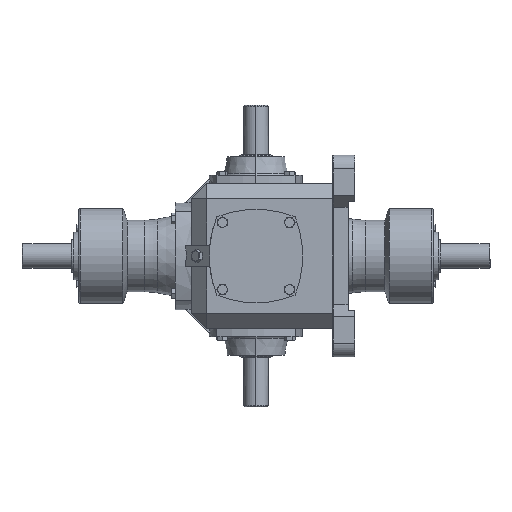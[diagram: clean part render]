
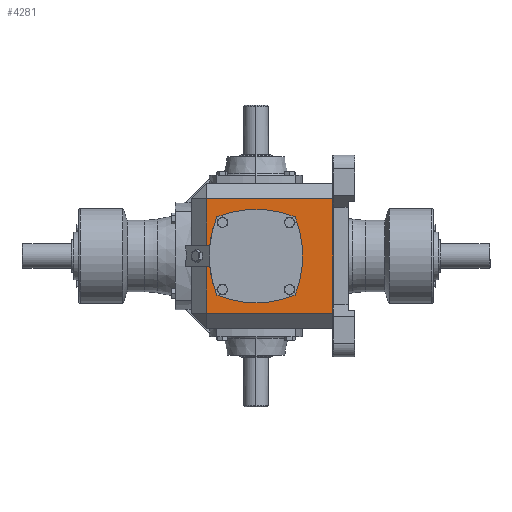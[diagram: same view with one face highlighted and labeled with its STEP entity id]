
A CAD part, left-side view. The second image highlights one B-rep face of the part: STEP entity #4281.
In plain terms, the highlighted planar face has unit normal (-1, 0, 0).
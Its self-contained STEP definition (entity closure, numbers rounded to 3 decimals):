
#44 = CARTESIAN_POINT ( 'NONE',  ( -55.8, 42.56, 0. ) ) ;
#61 = AXIS2_PLACEMENT_3D ( 'NONE', #149, #5010, #9481 ) ;
#100 = CARTESIAN_POINT ( 'NONE',  ( -55.8, 0., 42.56 ) ) ;
#130 = VECTOR ( 'NONE', #11841, 1000. ) ;
#149 = CARTESIAN_POINT ( 'NONE',  ( -55.8, 49.6, 55.8 ) ) ;
#524 = CARTESIAN_POINT ( 'NONE',  ( -55.8, 38.008, -8.114 ) ) ;
#685 = CARTESIAN_POINT ( 'NONE',  ( -55.8, 49.6, 44.208 ) ) ;
#1056 = CARTESIAN_POINT ( 'NONE',  ( -55.8, 49.6, 8.114 ) ) ;
#1843 = CARTESIAN_POINT ( 'NONE',  ( -55.8, 38.008, 55.8 ) ) ;
#1899 = CARTESIAN_POINT ( 'NONE',  ( -55.8, -42.56, 0. ) ) ;
#1964 = DIRECTION ( 'NONE',  ( -1., 0., 0. ) ) ;
#1988 = VERTEX_POINT ( 'NONE', #10606 ) ;
#2269 = CIRCLE ( 'NONE', #12790, 78.568 ) ;
#2323 = EDGE_CURVE ( 'NONE', #13124, #15799, #7478, .T. ) ;
#2410 = VERTEX_POINT ( 'NONE', #17762 ) ;
#2616 = DIRECTION ( 'NONE',  ( 0., 0., 1. ) ) ;
#2971 = VERTEX_POINT ( 'NONE', #12444 ) ;
#3679 = CARTESIAN_POINT ( 'NONE',  ( -55.8, 38.008, 44.208 ) ) ;
#3759 = ORIENTED_EDGE ( 'NONE', *, *, #5955, .T. ) ;
#3988 = ORIENTED_EDGE ( 'NONE', *, *, #11668, .T. ) ;
#4087 = ORIENTED_EDGE ( 'NONE', *, *, #14980, .F. ) ;
#4281 = ADVANCED_FACE ( 'NONE', ( #6581 ), #11168, .F. ) ;
#4611 = VERTEX_POINT ( 'NONE', #11223 ) ;
#4852 = VECTOR ( 'NONE', #16788, 1000. ) ;
#4990 = DIRECTION ( 'NONE',  ( 0., 0., 1. ) ) ;
#5010 = DIRECTION ( 'NONE',  ( 1., 0., 0. ) ) ;
#5056 = DIRECTION ( 'NONE',  ( -1., 0., 0. ) ) ;
#5110 = CARTESIAN_POINT ( 'NONE',  ( -55.8, 49.6, -8.114 ) ) ;
#5893 = LINE ( 'NONE', #1843, #11601 ) ;
#5955 = EDGE_CURVE ( 'NONE', #4611, #9851, #15472, .T. ) ;
#5959 = LINE ( 'NONE', #8891, #12417 ) ;
#6581 = FACE_OUTER_BOUND ( 'NONE', #12611, .T. ) ;
#7140 = DIRECTION ( 'NONE',  ( 0., 0., 1. ) ) ;
#7251 = VECTOR ( 'NONE', #10680, 1000. ) ;
#7293 = DIRECTION ( 'NONE',  ( -1., 0., 0. ) ) ;
#7478 = CIRCLE ( 'NONE', #12054, 78.568 ) ;
#7496 = VERTEX_POINT ( 'NONE', #524 ) ;
#7573 = VERTEX_POINT ( 'NONE', #15343 ) ;
#7727 = EDGE_CURVE ( 'NONE', #15799, #2410, #2269, .T. ) ;
#7848 = VECTOR ( 'NONE', #18411, 1000. ) ;
#7909 = VECTOR ( 'NONE', #14389, 1000. ) ;
#8005 = CARTESIAN_POINT ( 'NONE',  ( -55.8, -30.039, -30.039 ) ) ;
#8260 = CIRCLE ( 'NONE', #14362, 78.568 ) ;
#8351 = AXIS2_PLACEMENT_3D ( 'NONE', #16177, #1964, #4990 ) ;
#8797 = CARTESIAN_POINT ( 'NONE',  ( -55.8, 38.008, 55.8 ) ) ;
#8891 = CARTESIAN_POINT ( 'NONE',  ( -55.8, -59., 55.8 ) ) ;
#9056 = EDGE_CURVE ( 'NONE', #9851, #18162, #5959, .T. ) ;
#9341 = ORIENTED_EDGE ( 'NONE', *, *, #15246, .F. ) ;
#9481 = DIRECTION ( 'NONE',  ( 0., 0., -1. ) ) ;
#9818 = CARTESIAN_POINT ( 'NONE',  ( -55.8, 38.008, 8.114 ) ) ;
#9851 = VERTEX_POINT ( 'NONE', #12730 ) ;
#10106 = CIRCLE ( 'NONE', #8351, 78.568 ) ;
#10220 = EDGE_CURVE ( 'NONE', #7496, #2971, #12159, .T. ) ;
#10248 = EDGE_CURVE ( 'NONE', #2971, #15001, #14889, .T. ) ;
#10448 = DIRECTION ( 'NONE',  ( 0., 0., 1. ) ) ;
#10476 = CARTESIAN_POINT ( 'NONE',  ( -55.8, 30.039, -30.039 ) ) ;
#10480 = ORIENTED_EDGE ( 'NONE', *, *, #2323, .F. ) ;
#10606 = CARTESIAN_POINT ( 'NONE',  ( -55.8, 30.039, 30.039 ) ) ;
#10680 = DIRECTION ( 'NONE',  ( 0., 1., 0. ) ) ;
#11168 = PLANE ( 'NONE',  #61 ) ;
#11223 = CARTESIAN_POINT ( 'NONE',  ( -55.8, 38.008, -44.208 ) ) ;
#11307 = DIRECTION ( 'NONE',  ( 0., 0., 1. ) ) ;
#11313 = DIRECTION ( 'NONE',  ( -1., 0., 0. ) ) ;
#11551 = EDGE_CURVE ( 'NONE', #7496, #4611, #5893, .T. ) ;
#11601 = VECTOR ( 'NONE', #14399, 1000. ) ;
#11616 = EDGE_CURVE ( 'NONE', #18162, #17104, #19732, .T. ) ;
#11668 = EDGE_CURVE ( 'NONE', #17104, #19446, #17011, .T. ) ;
#11841 = DIRECTION ( 'NONE',  ( 0., 1., 0. ) ) ;
#12054 = AXIS2_PLACEMENT_3D ( 'NONE', #100, #16130, #11307 ) ;
#12159 = LINE ( 'NONE', #5110, #7909 ) ;
#12417 = VECTOR ( 'NONE', #10448, 1000. ) ;
#12444 = CARTESIAN_POINT ( 'NONE',  ( -55.8, 35.588, -8.114 ) ) ;
#12611 = EDGE_LOOP ( 'NONE', ( #4087, #9341, #13131, #16204, #10480, #18298, #13021, #19207, #15307, #3759, #14683, #20472, #3988 ) ) ;
#12730 = CARTESIAN_POINT ( 'NONE',  ( -55.8, -59., -44.208 ) ) ;
#12790 = AXIS2_PLACEMENT_3D ( 'NONE', #44, #11313, #14502 ) ;
#13021 = ORIENTED_EDGE ( 'NONE', *, *, #10248, .F. ) ;
#13124 = VERTEX_POINT ( 'NONE', #16415 ) ;
#13131 = ORIENTED_EDGE ( 'NONE', *, *, #19425, .F. ) ;
#14362 = AXIS2_PLACEMENT_3D ( 'NONE', #16988, #7293, #2616 ) ;
#14389 = DIRECTION ( 'NONE',  ( 0., -1., 0. ) ) ;
#14399 = DIRECTION ( 'NONE',  ( 0., 0., -1. ) ) ;
#14502 = DIRECTION ( 'NONE',  ( 0., 0., 1. ) ) ;
#14683 = ORIENTED_EDGE ( 'NONE', *, *, #9056, .T. ) ;
#14889 = CIRCLE ( 'NONE', #20238, 78.568 ) ;
#14980 = EDGE_CURVE ( 'NONE', #7573, #19446, #16917, .T. ) ;
#15001 = VERTEX_POINT ( 'NONE', #10476 ) ;
#15156 = AXIS2_PLACEMENT_3D ( 'NONE', #16705, #16634, #7140 ) ;
#15246 = EDGE_CURVE ( 'NONE', #1988, #7573, #8260, .T. ) ;
#15307 = ORIENTED_EDGE ( 'NONE', *, *, #11551, .T. ) ;
#15343 = CARTESIAN_POINT ( 'NONE',  ( -55.8, 35.588, 8.114 ) ) ;
#15472 = LINE ( 'NONE', #20246, #4852 ) ;
#15752 = CARTESIAN_POINT ( 'NONE',  ( -55.8, -59., 44.208 ) ) ;
#15799 = VERTEX_POINT ( 'NONE', #8005 ) ;
#16130 = DIRECTION ( 'NONE',  ( -1., 0., 0. ) ) ;
#16172 = DIRECTION ( 'NONE',  ( 0., 0., 1. ) ) ;
#16177 = CARTESIAN_POINT ( 'NONE',  ( -55.8, 0., -42.56 ) ) ;
#16204 = ORIENTED_EDGE ( 'NONE', *, *, #7727, .F. ) ;
#16415 = CARTESIAN_POINT ( 'NONE',  ( -55.8, 0., -36.008 ) ) ;
#16634 = DIRECTION ( 'NONE',  ( -1., 0., 0. ) ) ;
#16705 = CARTESIAN_POINT ( 'NONE',  ( -55.8, 0., 42.56 ) ) ;
#16788 = DIRECTION ( 'NONE',  ( 0., -1., 0. ) ) ;
#16917 = LINE ( 'NONE', #1056, #7251 ) ;
#16988 = CARTESIAN_POINT ( 'NONE',  ( -55.8, -42.56, 0. ) ) ;
#17011 = LINE ( 'NONE', #8797, #7848 ) ;
#17104 = VERTEX_POINT ( 'NONE', #3679 ) ;
#17762 = CARTESIAN_POINT ( 'NONE',  ( -55.8, -30.039, 30.039 ) ) ;
#18162 = VERTEX_POINT ( 'NONE', #15752 ) ;
#18279 = CIRCLE ( 'NONE', #15156, 78.568 ) ;
#18298 = ORIENTED_EDGE ( 'NONE', *, *, #19032, .F. ) ;
#18411 = DIRECTION ( 'NONE',  ( 0., 0., -1. ) ) ;
#19032 = EDGE_CURVE ( 'NONE', #15001, #13124, #18279, .T. ) ;
#19207 = ORIENTED_EDGE ( 'NONE', *, *, #10220, .F. ) ;
#19425 = EDGE_CURVE ( 'NONE', #2410, #1988, #10106, .T. ) ;
#19446 = VERTEX_POINT ( 'NONE', #9818 ) ;
#19732 = LINE ( 'NONE', #685, #130 ) ;
#20238 = AXIS2_PLACEMENT_3D ( 'NONE', #1899, #5056, #16172 ) ;
#20246 = CARTESIAN_POINT ( 'NONE',  ( -55.8, 49.6, -44.208 ) ) ;
#20472 = ORIENTED_EDGE ( 'NONE', *, *, #11616, .T. ) ;
